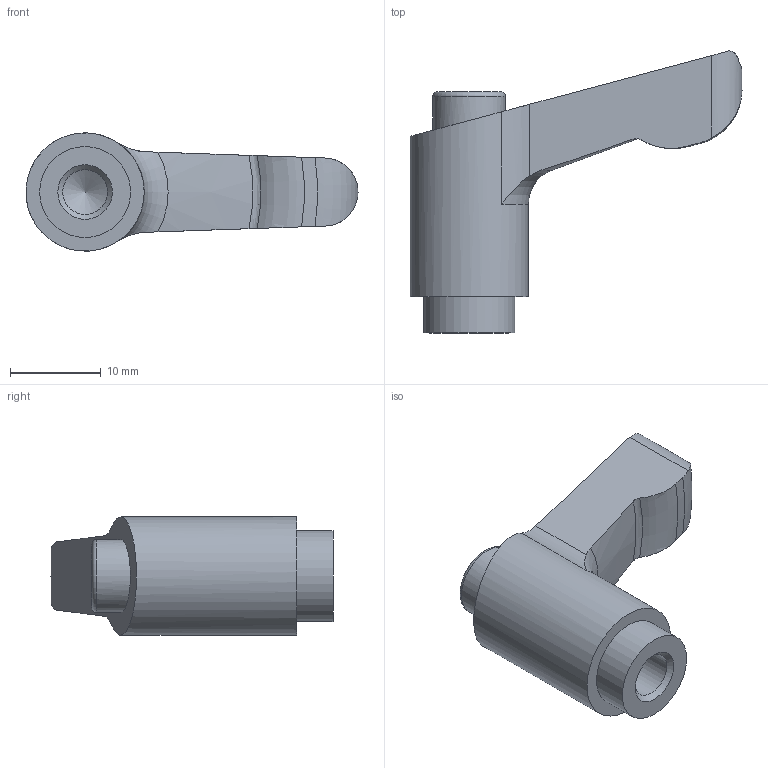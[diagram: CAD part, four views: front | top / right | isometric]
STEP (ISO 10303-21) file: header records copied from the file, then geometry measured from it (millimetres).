
FILE_DESCRIPTION( ( 'STEP AP203' ), '1' );
FILE_NAME( 'C:/Temp/Ganter_Step_05_03_2020/data/2_1/gn303_1/gn303_1_b/Adjustable hand lever GN 303.1-30-M6-SW-O.stp', '2020-03-05T11:21:53', ( 'License CC BY-ND 4.0' ), ( 'CADENAS' ), ' ', 'PARTsolutions', ' ' );
FILE_SCHEMA( ( 'CONFIG_CONTROL_DESIGN' ) );
Length unit declared in the file: millimetre
Products named in the file (1): _Adjustable hand lever GN 303.1-30-M6-SW-O
Bounding box: 36.5 x 31 x 12.99 mm (x, y, z)
Volume: 4330.6 mm3; surface area: 2174.2 mm2
Topology: 1 solids, 1 shells, 24 faces, 59 edges, 39 vertices
Faces by surface type: cylinder 7, plane 6, torus 6, cone 5
Full cylindrical faces by diameter (mm): 4.917 x1, 8 x1, 10 x1, 13 x1
Entity records: 826 total; most frequent: CARTESIAN_POINT 275, DIRECTION 100, ORIENTED_EDGE 98, EDGE_CURVE 49, AXIS2_PLACEMENT_3D 46, VERTEX_POINT 37, EDGE_LOOP 33, FACE_OUTER_BOUND 29
